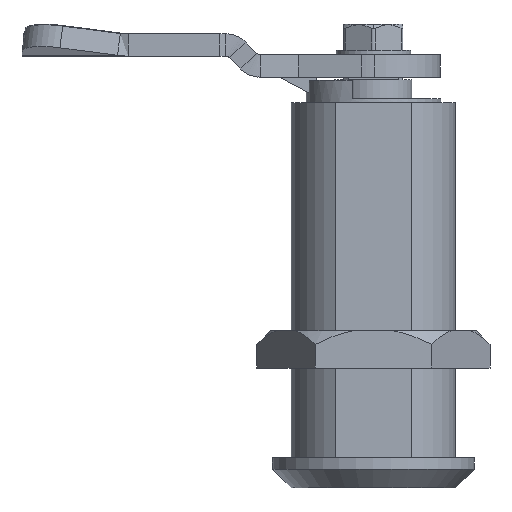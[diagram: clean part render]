
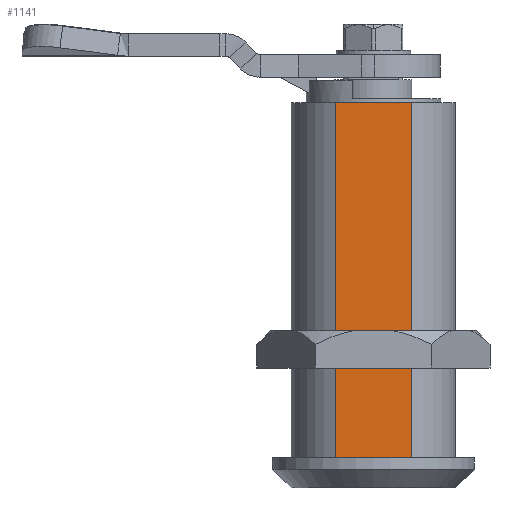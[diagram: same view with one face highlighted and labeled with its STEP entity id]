
A CAD part, front view. The second image highlights one B-rep face of the part: STEP entity #1141.
In plain terms, the highlighted planar face has unit normal (0, -1, 0).
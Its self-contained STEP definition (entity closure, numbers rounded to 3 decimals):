
#674 = VERTEX_POINT ( 'NONE', #3637 ) ;
#681 = VERTEX_POINT ( 'NONE', #3625 ) ;
#683 = EDGE_CURVE ( 'NONE', #674, #681, #3623, .T. ) ;
#1141 = ADVANCED_FACE ( 'NONE', ( #5209 ), #5251, .T. ) ;
#1142 = EDGE_LOOP ( 'NONE', ( #1143, #1146, #1147, #1148 ) ) ;
#1143 = ORIENTED_EDGE ( 'NONE', *, *, #1144, .F. ) ;
#1144 = EDGE_CURVE ( 'NONE', #1158, #1145, #5246, .T. ) ;
#1145 = VERTEX_POINT ( 'NONE', #5242 ) ;
#1146 = ORIENTED_EDGE ( 'NONE', *, *, #1214, .T. ) ;
#1147 = ORIENTED_EDGE ( 'NONE', *, *, #683, .T. ) ;
#1148 = ORIENTED_EDGE ( 'NONE', *, *, #1149, .T. ) ;
#1149 = EDGE_CURVE ( 'NONE', #681, #1145, #5240, .T. ) ;
#1158 = VERTEX_POINT ( 'NONE', #5272 ) ;
#1214 = EDGE_CURVE ( 'NONE', #1158, #674, #5439, .T. ) ;
#3620 = DIRECTION ( 'NONE',  ( 0., 0., -1. ) ) ;
#3621 = VECTOR ( 'NONE', #3620, 1000. ) ;
#3622 = CARTESIAN_POINT ( 'NONE',  ( -5.093, -9.75, -999944.5 ) ) ;
#3623 = LINE ( 'NONE', #3622, #3621 ) ;
#3625 = CARTESIAN_POINT ( 'NONE',  ( -5.093, -9.75, 4. ) ) ;
#3637 = CARTESIAN_POINT ( 'NONE',  ( -5.093, -9.75, 51.5 ) ) ;
#5209 = FACE_OUTER_BOUND ( 'NONE', #1142, .T. ) ;
#5237 = DIRECTION ( 'NONE',  ( 1., 0., 0. ) ) ;
#5238 = VECTOR ( 'NONE', #5237, 1000. ) ;
#5239 = CARTESIAN_POINT ( 'NONE',  ( -14.639, -9.75, 4. ) ) ;
#5240 = LINE ( 'NONE', #5239, #5238 ) ;
#5242 = CARTESIAN_POINT ( 'NONE',  ( 5.093, -9.75, 4. ) ) ;
#5243 = DIRECTION ( 'NONE',  ( 0., 0., -1. ) ) ;
#5244 = VECTOR ( 'NONE', #5243, 1000. ) ;
#5245 = CARTESIAN_POINT ( 'NONE',  ( 5.093, -9.75, -5.174 ) ) ;
#5246 = LINE ( 'NONE', #5245, #5244 ) ;
#5247 = DIRECTION ( 'NONE',  ( 0., 0., -1. ) ) ;
#5248 = DIRECTION ( 'NONE',  ( 0., -1., 0. ) ) ;
#5249 = CARTESIAN_POINT ( 'NONE',  ( -15.711, -9.75, -999944.5 ) ) ;
#5250 = AXIS2_PLACEMENT_3D ( 'NONE', #5249, #5248, #5247 ) ;
#5251 = PLANE ( 'NONE',  #5250 ) ;
#5272 = CARTESIAN_POINT ( 'NONE',  ( 5.093, -9.75, 51.5 ) ) ;
#5436 = DIRECTION ( 'NONE',  ( -1., 0., 0. ) ) ;
#5437 = VECTOR ( 'NONE', #5436, 1000. ) ;
#5438 = CARTESIAN_POINT ( 'NONE',  ( -15.711, -9.75, 51.5 ) ) ;
#5439 = LINE ( 'NONE', #5438, #5437 ) ;
